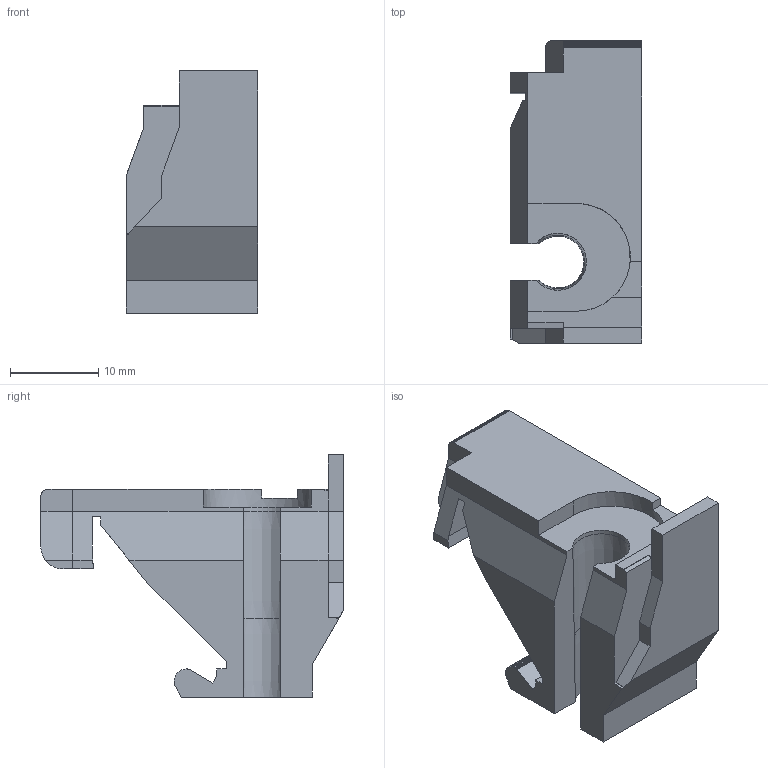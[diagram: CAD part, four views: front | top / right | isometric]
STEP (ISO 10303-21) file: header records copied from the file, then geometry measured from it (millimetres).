
FILE_DESCRIPTION(('Open CASCADE Model'),'2;1');
FILE_NAME('Open CASCADE Shape Model','2026-10-27T10:01:12',('Author'),( 'Open CASCADE'),'Open CASCADE STEP processor 8.0','build123d', 'Unknown');
FILE_SCHEMA(('AUTOMOTIVE_DESIGN { 1 0 10303 214 1 1 1 1 }'));
Length unit declared in the file: millimetre
Products named in the file (1): SOLID
Bounding box: 14.9 x 34.2 x 27.4 mm (x, y, z)
Volume: 6266.4 mm3; surface area: 3224 mm2
Topology: 1 solids, 1 shells, 104 faces, 305 edges, 203 vertices
Faces by surface type: plane 100, cone 3, cylinder 1
Entity records: 7075 total; most frequent: CARTESIAN_POINT 1962, DIRECTION 620, ORIENTED_EDGE 610, PCURVE 610, DEFINITIONAL_REPRESENTATION 610, B_SPLINE_CURVE_WITH_KNOTS 511, LINE 390, VECTOR 390
